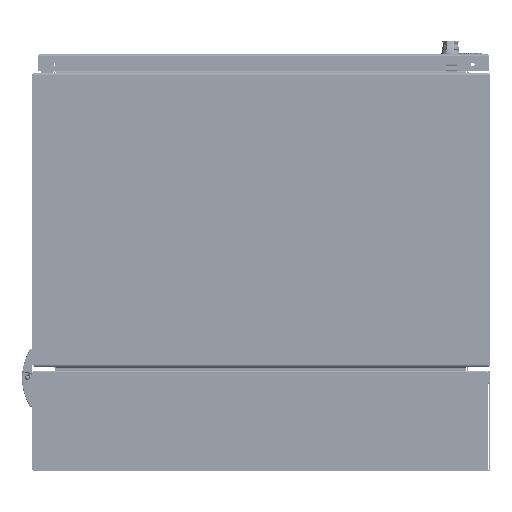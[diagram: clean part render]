
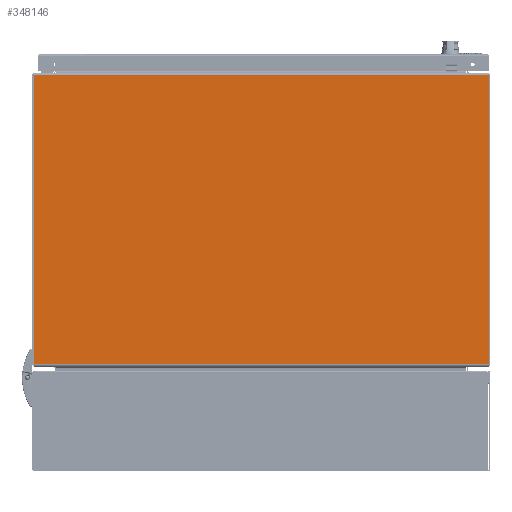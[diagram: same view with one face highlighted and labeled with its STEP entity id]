
A CAD part, front view. The second image highlights one B-rep face of the part: STEP entity #348146.
In plain terms, the highlighted planar face has unit normal (0, -1, 0).
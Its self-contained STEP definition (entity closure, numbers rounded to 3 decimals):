
#19386 = EDGE_CURVE ( 'NONE', #466659, #466652, #322524, .T. ) ;
#19392 = EDGE_CURVE ( 'NONE', #466666, #466669, #322553, .T. ) ;
#19434 = EDGE_CURVE ( 'NONE', #466659, #466669, #322634, .T. ) ;
#19440 = EDGE_CURVE ( 'NONE', #466666, #466652, #322657, .T. ) ;
#31043 = ORIENTED_EDGE ( 'NONE', *, *, #19440, .T. ) ;
#31045 = ORIENTED_EDGE ( 'NONE', *, *, #19386, .F. ) ;
#31047 = ORIENTED_EDGE ( 'NONE', *, *, #19434, .T. ) ;
#31049 = ORIENTED_EDGE ( 'NONE', *, *, #19392, .F. ) ;
#34410 = EDGE_LOOP ( 'NONE', ( #31043, #31045, #31047, #31049 ) ) ;
#206852 = CARTESIAN_POINT ( 'NONE',  ( 348.171, 0., -220.885 ) ) ;
#206856 = CARTESIAN_POINT ( 'NONE',  ( 348.171, 0., 220.885 ) ) ;
#206860 = CARTESIAN_POINT ( 'NONE',  ( -348.171, 0., -220.885 ) ) ;
#206862 = CARTESIAN_POINT ( 'NONE',  ( -348.171, 0., 220.885 ) ) ;
#322524 = LINE ( 'NONE', #359545, #322556 ) ;
#322538 = VECTOR ( 'NONE', #359561, 1000. ) ;
#322553 = LINE ( 'NONE', #359560, #322538 ) ;
#322556 = VECTOR ( 'NONE', #359552, 1000. ) ;
#322634 = LINE ( 'NONE', #359617, #322654 ) ;
#322651 = VECTOR ( 'NONE', #359635, 1000. ) ;
#322654 = VECTOR ( 'NONE', #359625, 1000. ) ;
#322657 = LINE ( 'NONE', #359634, #322651 ) ;
#348146 = ADVANCED_FACE ( 'NONE', ( #403554 ), #383590, .F. ) ;
#359545 = CARTESIAN_POINT ( 'NONE',  ( 348.171, 0., -225. ) ) ;
#359552 = DIRECTION ( 'NONE',  ( 0., 0., -1. ) ) ;
#359560 = CARTESIAN_POINT ( 'NONE',  ( -348.171, 0., -225. ) ) ;
#359561 = DIRECTION ( 'NONE',  ( 0., 0., 1. ) ) ;
#359617 = CARTESIAN_POINT ( 'NONE',  ( 348.171, 0., 220.885 ) ) ;
#359625 = DIRECTION ( 'NONE',  ( -1., 0., 0. ) ) ;
#359634 = CARTESIAN_POINT ( 'NONE',  ( -348.171, 0., -220.885 ) ) ;
#359635 = DIRECTION ( 'NONE',  ( 1., 0., 0. ) ) ;
#383573 = CARTESIAN_POINT ( 'NONE',  ( 348.171, 0., 225. ) ) ;
#383590 = PLANE ( 'NONE',  #385579 ) ;
#383623 = DIRECTION ( 'NONE',  ( 0., 1., 0. ) ) ;
#383626 = DIRECTION ( 'NONE',  ( 0., 0., 1. ) ) ;
#385579 = AXIS2_PLACEMENT_3D ( 'NONE', #383573, #383623, #383626 ) ;
#403554 = FACE_OUTER_BOUND ( 'NONE', #34410, .T. ) ;
#466652 = VERTEX_POINT ( 'NONE', #206852 ) ;
#466659 = VERTEX_POINT ( 'NONE', #206856 ) ;
#466666 = VERTEX_POINT ( 'NONE', #206860 ) ;
#466669 = VERTEX_POINT ( 'NONE', #206862 ) ;
